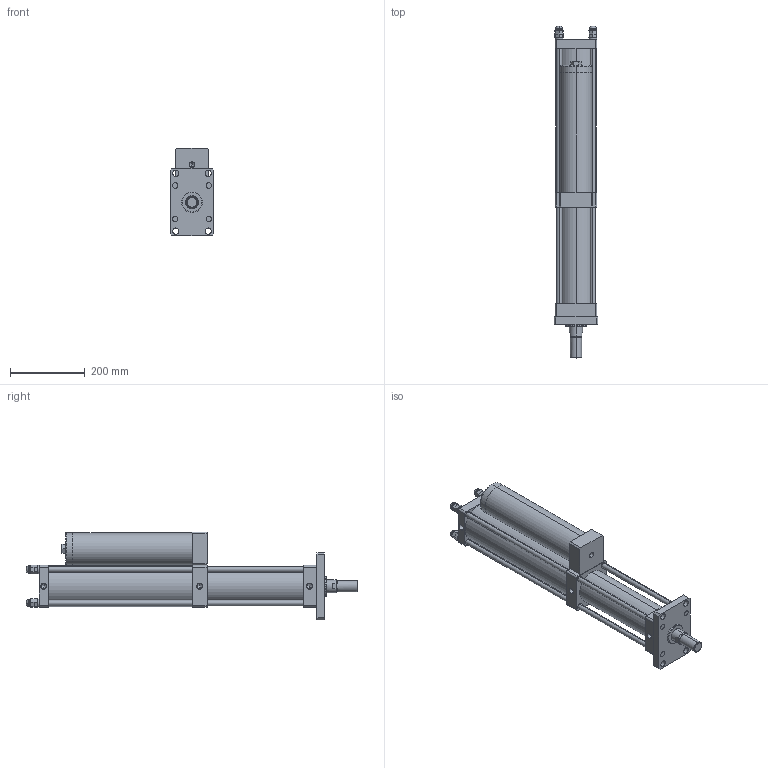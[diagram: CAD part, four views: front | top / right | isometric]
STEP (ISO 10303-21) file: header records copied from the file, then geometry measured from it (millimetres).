
FILE_DESCRIPTION (( 'STEP AP203' ), '1' );
FILE_NAME ('MPT-80-150-20-8T.STEP', '2016-03-11T03:36:38', ( 'WIN' ), ( '' ), 'SwSTEP 2.0', 'SolidWorks 2014', '' );
FILE_SCHEMA (( 'CONFIG_CONTROL_DESIGN' ));
Length unit declared in the file: millimetre
Products named in the file (1): MPT-80-150-20-8T
Bounding box: 118 x 891.01 x 235 mm (x, y, z)
Volume: 7878273.3 mm3; surface area: 844054.8 mm2
Topology: 20 solids, 20 shells, 400 faces, 968 edges, 562 vertices
Faces by surface type: plane 187, cylinder 90, torus 48, bspline 48, cone 27
Entity records: 12732 total; most frequent: CARTESIAN_POINT 3707, DIRECTION 1901, ORIENTED_EDGE 1804, EDGE_CURVE 902, AXIS2_PLACEMENT_3D 700, VERTEX_POINT 562, VECTOR 501, LINE 501
